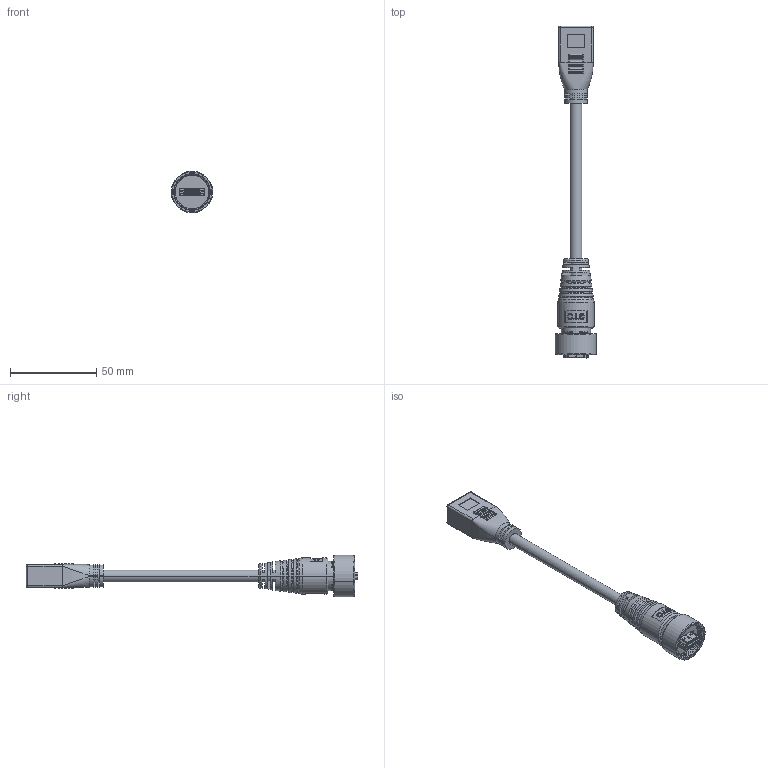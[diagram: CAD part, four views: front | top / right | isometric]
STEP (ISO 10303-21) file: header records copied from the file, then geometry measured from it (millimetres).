
FILE_DESCRIPTION (( 'STEP AP203' ), '1' );
FILE_NAME ('GT2H2320-01-XX.STEP', '2016-05-19T00:56:54', ( '' ), ( '' ), 'SwSTEP 2.0', 'SolidWorks 2012', '' );
FILE_SCHEMA (( 'CONFIG_CONTROL_DESIGN' ));
Products named in the file (9): GT2H2320-01-XX; HDMI非防水母頭; 83024-F0101; HDMI F外模; 652H2-00020; 702H2-X7101; 692H2-X4101; 662H2-30010; 83024-M0101
Assembly tree (8 placements, depth 3):
  GT2H2320-01-XX
    83024-M0101
    662H2-30010
    692H2-X4101
    702H2-X7101
    652H2-00020
    HDMI非防水母頭
      HDMI F外模
      83024-F0101
Bounding box: 23.91 x 192.05 x 23.91 mm (x, y, z)
Volume: 33213.2 mm3; surface area: 19354.4 mm2
Topology: 10 solids, 10 shells, 2541 faces, 7190 edges, 4620 vertices
Faces by surface type: plane 1769, cylinder 555, bspline 99, sphere 52, torus 36, cone 30
Entity records: 85455 total; most frequent: CARTESIAN_POINT 18847, ORIENTED_EDGE 14276, DIRECTION 12877, EDGE_CURVE 7138, LINE 5509, VECTOR 5509, VERTEX_POINT 4619, AXIS2_PLACEMENT_3D 3684
